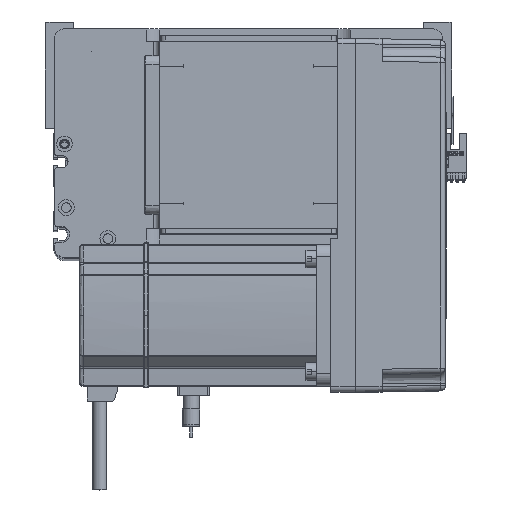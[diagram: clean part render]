
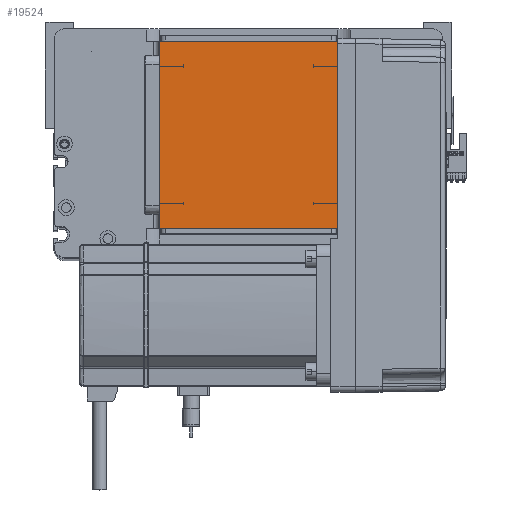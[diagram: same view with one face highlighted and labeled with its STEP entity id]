
A CAD part, top view. The second image highlights one B-rep face of the part: STEP entity #19524.
In plain terms, the highlighted planar face has unit normal (0, 0, 1).
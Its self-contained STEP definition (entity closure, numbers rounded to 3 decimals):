
#1254 = CARTESIAN_POINT ( 'NONE',  ( -50.5, 122., 115. ) ) ;
#1871 = LINE ( 'NONE', #12236, #45980 ) ;
#2275 = CARTESIAN_POINT ( 'NONE',  ( 50.5, 16., 115. ) ) ;
#3882 = VERTEX_POINT ( 'NONE', #24041 ) ;
#4288 = DIRECTION ( 'NONE',  ( 0., -1., 0. ) ) ;
#4293 = CARTESIAN_POINT ( 'NONE',  ( 50.5, 122., 115. ) ) ;
#6798 = CARTESIAN_POINT ( 'NONE',  ( -50.5, 16., 115. ) ) ;
#6960 = VERTEX_POINT ( 'NONE', #1254 ) ;
#7101 = VERTEX_POINT ( 'NONE', #6798 ) ;
#7542 = CARTESIAN_POINT ( 'NONE',  ( -50.5, 122., 115. ) ) ;
#8182 = DIRECTION ( 'NONE',  ( 0., 1., 0. ) ) ;
#8813 = CARTESIAN_POINT ( 'NONE',  ( 0., 0., 115. ) ) ;
#12236 = CARTESIAN_POINT ( 'NONE',  ( -50.5, 122., 115. ) ) ;
#16909 = ORIENTED_EDGE ( 'NONE', *, *, #18836, .T. ) ;
#17534 = LINE ( 'NONE', #7542, #35694 ) ;
#18836 = EDGE_CURVE ( 'NONE', #23393, #3882, #31264, .T. ) ;
#19524 = ADVANCED_FACE ( 'NONE', ( #36581 ), #31989, .T. ) ;
#19699 = VECTOR ( 'NONE', #8182, 1000. ) ;
#20931 = EDGE_CURVE ( 'NONE', #7101, #23393, #26164, .T. ) ;
#23393 = VERTEX_POINT ( 'NONE', #2275 ) ;
#24041 = CARTESIAN_POINT ( 'NONE',  ( 50.5, 122., 115. ) ) ;
#26164 = LINE ( 'NONE', #34110, #35259 ) ;
#27098 = ORIENTED_EDGE ( 'NONE', *, *, #46507, .T. ) ;
#27935 = DIRECTION ( 'NONE',  ( 1., 0., 0. ) ) ;
#28541 = AXIS2_PLACEMENT_3D ( 'NONE', #8813, #47666, #27935 ) ;
#30412 = DIRECTION ( 'NONE',  ( 1., 0., 0. ) ) ;
#31264 = LINE ( 'NONE', #4293, #19699 ) ;
#31989 = PLANE ( 'NONE',  #28541 ) ;
#32632 = ORIENTED_EDGE ( 'NONE', *, *, #47517, .T. ) ;
#33465 = ORIENTED_EDGE ( 'NONE', *, *, #20931, .T. ) ;
#34110 = CARTESIAN_POINT ( 'NONE',  ( -50.5, 16., 115. ) ) ;
#35259 = VECTOR ( 'NONE', #30412, 1000. ) ;
#35694 = VECTOR ( 'NONE', #39110, 1000. ) ;
#36581 = FACE_OUTER_BOUND ( 'NONE', #47077, .T. ) ;
#39110 = DIRECTION ( 'NONE',  ( -1., 0., 0. ) ) ;
#45980 = VECTOR ( 'NONE', #4288, 1000. ) ;
#46507 = EDGE_CURVE ( 'NONE', #6960, #7101, #1871, .T. ) ;
#47077 = EDGE_LOOP ( 'NONE', ( #27098, #33465, #16909, #32632 ) ) ;
#47517 = EDGE_CURVE ( 'NONE', #3882, #6960, #17534, .T. ) ;
#47666 = DIRECTION ( 'NONE',  ( 0., 0., 1. ) ) ;
